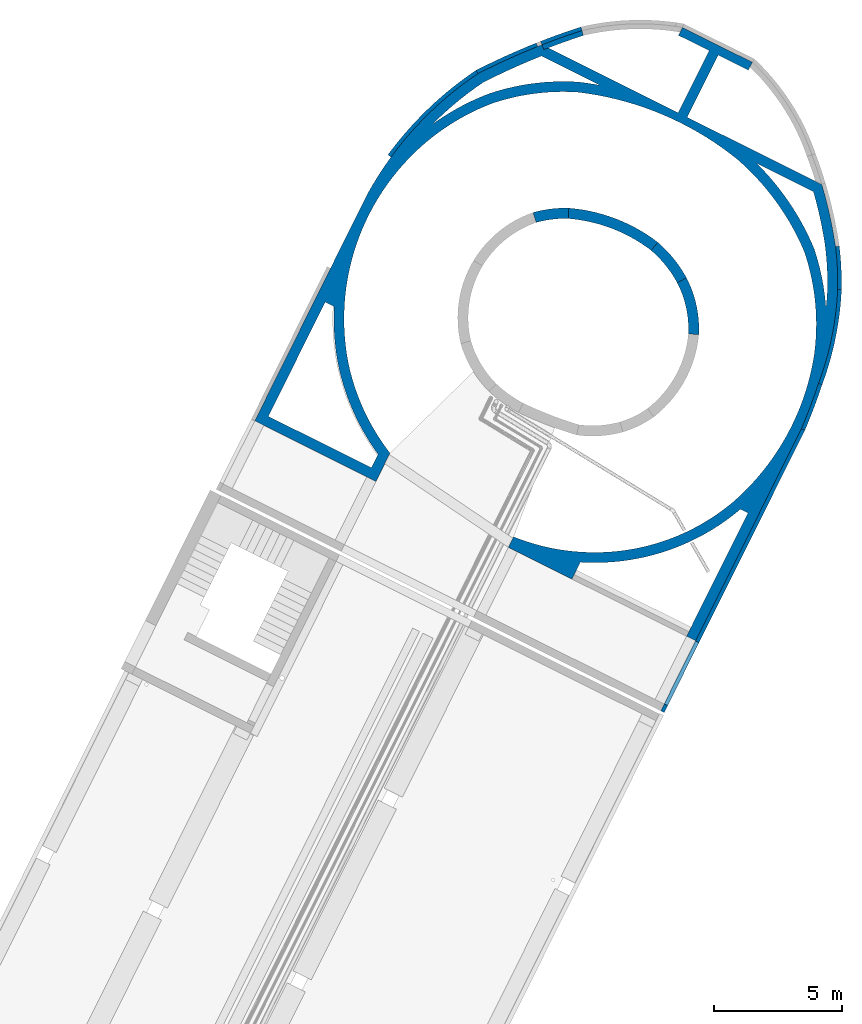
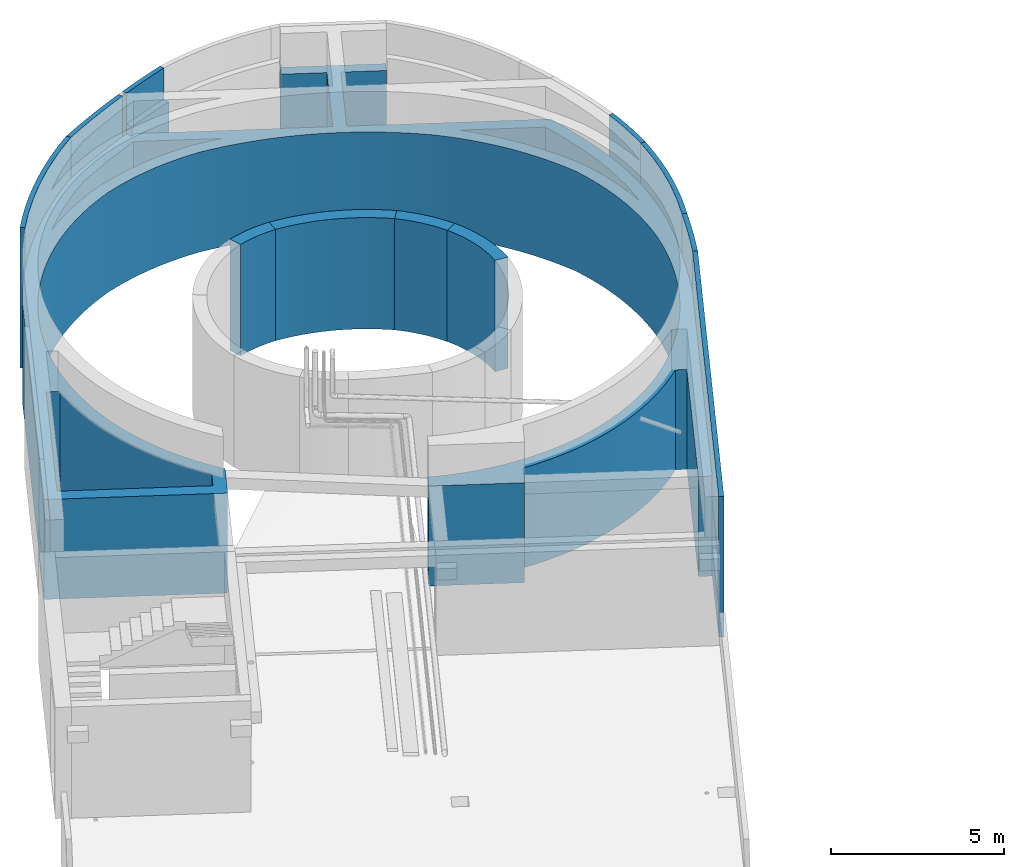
# One storey, part 9 of 47: 13 walls, 4 openings.
"""IFC2X3 building model written with IfcOpenShell, lengths in metres."""

from ifc_helpers import new_model, entity, si_unit, converted_unit, derived_unit, direction, frame, frame_2d, origin, origin_2d_with_axis, place, context, subcontext, project, spatial, polyline, circle_curve, parameter, trimmed, segment, composite_curve, rectangle, outline, extrude, material, layer, layer_set, layer_usage, type_object, element, save


model = new_model("IFC2X3")

# Units and contexts
model_context = context("Model", 3, precision=1e-05, world=origin(), true_north=direction((0.894925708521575, 0.446215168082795)))
context_of_model = context(None, 3, precision=1e-05, world=origin(), true_north=direction((0.894925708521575, 0.446215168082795)))
body_context = subcontext(model_context, "Body", "Model", "MODEL_VIEW")
ifc_project = project(units=[si_unit("LENGTHUNIT", "METRE"), si_unit("AREAUNIT", "SQUARE_METRE"), si_unit("VOLUMEUNIT", "CUBIC_METRE"), converted_unit("PLANEANGLEUNIT", "DEGREE", entity("IfcRatioMeasure", 0.0174532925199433), si_unit("PLANEANGLEUNIT", "RADIAN"), dimensions=[0, 0, 0, 0, 0, 0, 0]), si_unit("MASSUNIT", "GRAM", prefix="KILO"), si_unit("TIMEUNIT", "SECOND"), si_unit("FREQUENCYUNIT", "HERTZ"), si_unit("THERMODYNAMICTEMPERATUREUNIT", "DEGREE_CELSIUS"), derived_unit("THERMALTRANSMITTANCEUNIT", [(si_unit("MASSUNIT", "GRAM", prefix="KILO"), 1), (si_unit("THERMODYNAMICTEMPERATUREUNIT", "KELVIN"), -1), (si_unit("TIMEUNIT", "SECOND"), -3)]), derived_unit("VOLUMETRICFLOWRATEUNIT", [(si_unit("LENGTHUNIT", "METRE"), 3), (si_unit("TIMEUNIT", "SECOND"), -1)]), si_unit("ELECTRICCURRENTUNIT", "AMPERE"), si_unit("ELECTRICVOLTAGEUNIT", "VOLT"), si_unit("POWERUNIT", "WATT"), si_unit("FORCEUNIT", "NEWTON", prefix="KILO"), si_unit("ILLUMINANCEUNIT", "LUX"), si_unit("LUMINOUSFLUXUNIT", "LUMEN"), si_unit("LUMINOUSINTENSITYUNIT", "CANDELA"), si_unit("PRESSUREUNIT", "PASCAL")], contexts=[model_context, context_of_model])

# Site, building, storey
site_placement = place(None, frame((218.228324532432, 584.720189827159, 0.0), z_axis=(0.0, 0.0, 1.0), x_axis=(0.446215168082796, 0.894925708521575, 0.0)))
site = spatial("IfcSite", under=ifc_project, at=site_placement, Name="Default", CompositionType="ELEMENT")
building_placement = place(site_placement, origin())
building = spatial("IfcBuilding", under=site, at=building_placement, CompositionType="ELEMENT")
storey_placement = place(building_placement, frame((0.0, 0.0, 4.69)))
storey = spatial("IfcBuildingStorey", under=building, at=storey_placement, Name="1 - Piano Primo", CompositionType="ELEMENT", Elevation=4.69)

# Walls
ifc_material_1 = material(Name="Intonaco - Bianco")
ifc_layer_1 = layer(ifc_material_1, 0.01)
ifc_material_2 = material(Name="Default - Calcestruzzo")
ifc_layer_2 = layer(ifc_material_2, 0.4)
ifc_layer_set_1 = layer_set([ifc_layer_1, ifc_layer_2], Name="Muro di base:Setto CA intonacato int - 41 cm")
ifc_layer_usage_1 = layer_usage(ifc_layer_set_1, "AXIS2", "POSITIVE", -0.205)
wall_type_1 = type_object("IfcWallType", Name="Muro di base:Setto CA intonacato int - 41 cm", PredefinedType="STANDARD", material=ifc_layer_set_1)
wall_1_placement = place(storey_placement, frame((74.4408967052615, -6.4093007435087, 0.0), z_axis=(0.0, 0.0, 1.0), x_axis=(0.401751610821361, -0.91574867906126, 0.0)))
element("IfcWallStandardCase", 1, at=wall_1_placement, inside=storey, type_object=wall_type_1, material=ifc_layer_usage_1, Name="Muro di base:Setto CA intonacato int - 41 cm", ObjectType="Muro di base:Setto CA intonacato int - 41 cm", context=body_context, shape_type="SweptSolid", body=[
    extrude(outline(composite_curve([segment(trimmed(circle_curve(frame_2d((-3.6131813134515, -2.09945934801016), x_axis=(1.0, 0.0)), 4.3838525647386), [parameter(4.07110999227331e-12)], [parameter(30.1589707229)], True, "PARAMETER"), True, "CONTINUOUS"), segment(polyline([(0.177250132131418, 0.102992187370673), (-0.17501766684, -0.106839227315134)]), True, "CONTINUOUS"), segment(trimmed(circle_curve(frame_2d((-3.6131813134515, -2.09945934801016), x_axis=(1.0, 0.0)), 3.9738525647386), [parameter(0.123917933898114)], [parameter(30.0948403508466)], True, "PARAMETER"), False, "CONTINUOUS"), segment(polyline([(0.360661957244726, -2.09086480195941), (0.770671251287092, -2.09945934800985)]), True, "CONTINUOUS")], self_intersect=False)), origin(), (0.0, 0.0, 1.0), 3.92),
])
ifc_layer_usage_2 = layer_usage(ifc_layer_set_1, "AXIS2", "POSITIVE", -0.205)
wall_2_placement = place(storey_placement, frame((75.1511296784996, -4.85328415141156, 0.0), z_axis=(0.0, 0.0, 1.0), x_axis=(0.791601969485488, -0.611037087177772, 0.0)))
element("IfcWallStandardCase", 2, at=wall_2_placement, inside=storey, type_object=wall_type_1, material=ifc_layer_usage_2, Name="Muro di base:Setto CA intonacato int - 41 cm", ObjectType="Muro di base:Setto CA intonacato int - 41 cm", context=body_context, shape_type="SweptSolid", body=[
    extrude(outline(composite_curve([segment(trimmed(circle_curve(frame_2d((-4.38089045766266, -1.89996316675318), x_axis=(1.0, 0.0)), 4.98015038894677), [parameter(2.75814113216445)], [parameter(23.4460581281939)], True, "PARAMETER"), True, "CONTINUOUS"), segment(polyline([(0.188074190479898, 0.0815665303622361), (-0.18352889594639, -0.0920830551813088)]), True, "CONTINUOUS"), segment(trimmed(circle_curve(frame_2d((-4.38089045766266, -1.89996316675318), x_axis=(1.0, 0.0)), 4.57015038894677), [parameter(2.81424736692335)], [parameter(23.3024253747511)], True, "PARAMETER"), False, "CONTINUOUS"), segment(polyline([(0.183748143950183, -1.67557730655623), (0.593490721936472, -1.66031806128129)]), True, "CONTINUOUS")], self_intersect=False)), origin(), (0.0, 0.0, 1.0), 3.92),
])
ifc_layer_usage_3 = layer_usage(ifc_layer_set_1, "AXIS2", "POSITIVE", -0.205)
wall_3_placement = place(storey_placement, frame((74.802726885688, -1.26210765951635, 0.0), z_axis=(0.0, 0.0, 1.0), x_axis=(0.981627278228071, -0.190808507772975, 0.0)))
element("IfcWallStandardCase", 3, at=wall_3_placement, inside=storey, type_object=wall_type_1, material=ifc_layer_usage_3, Name="Muro di base:Setto CA intonacato int - 41 cm", ObjectType="Muro di base:Setto CA intonacato int - 41 cm", context=body_context, shape_type="SweptSolid", body=[
    extrude(outline(composite_curve([segment(trimmed(circle_curve(frame_2d((-5.35002966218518, -3.47022808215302), x_axis=(1.0, 0.0)), 6.58193502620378), [parameter(359.999999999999)], [parameter(32.9689408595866)], True, "PARAMETER"), True, "CONTINUOUS"), segment(polyline([(0.171987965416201, 0.111557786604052), (-0.16648051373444, -0.120063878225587)]), True, "CONTINUOUS"), segment(trimmed(circle_curve(frame_2d((-5.35002966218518, -3.47022808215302), x_axis=(1.0, 0.0)), 6.17193502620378), [parameter(0.107510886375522)], [parameter(32.8748697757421)], True, "PARAMETER"), False, "CONTINUOUS"), segment(polyline([(0.821894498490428, -3.458646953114), (1.2319053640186, -3.47022808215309)]), True, "CONTINUOUS")], self_intersect=False)), origin(), (0.0, 0.0, 1.0), 3.92),
])
ifc_layer_usage_4 = layer_usage(ifc_layer_set_1, "AXIS2", "POSITIVE", -0.205)
wall_4_placement = place(storey_placement, frame((74.0607317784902, -0.146360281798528, 0.0), z_axis=(0.0, 0.0, 1.0), x_axis=(0.907919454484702, 0.419144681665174, 0.0)))
element("IfcWallStandardCase", 4, at=wall_4_placement, inside=storey, type_object=wall_type_1, material=ifc_layer_usage_4, Name="Muro di base:Setto CA intonacato int - 41 cm", ObjectType="Muro di base:Setto CA intonacato int - 41 cm", context=body_context, shape_type="SweptSolid", body=[
    extrude(outline(composite_curve([segment(trimmed(circle_curve(frame_2d((-4.22179150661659, -1.33406781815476), x_axis=(1.0, 0.0)), 4.63255694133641), [parameter(7.46030906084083e-11)], [parameter(17.5363103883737)], True, "PARAMETER"), True, "CONTINUOUS"), segment(polyline([(0.195472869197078, 0.0617685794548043), (-0.192000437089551, -0.0728100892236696)]), True, "CONTINUOUS"), segment(trimmed(circle_curve(frame_2d((-4.22179150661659, -1.33406781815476), x_axis=(1.0, 0.0)), 4.22255694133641), [parameter(0.135564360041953)], [parameter(17.3792540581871)], True, "PARAMETER"), False, "CONTINUOUS"), segment(polyline([(0.000753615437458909, -1.3240770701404), (0.410765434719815, -1.33406781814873)]), True, "CONTINUOUS")], self_intersect=False)), origin(), (0.0, 0.0, 1.0), 3.92),
])
ifc_material_3 = material(Name="Sabbia e Calcestruzzo")
ifc_layer_3 = layer(ifc_material_3, 0.2)
ifc_layer_set_2 = layer_set([ifc_layer_3], Name="Muro di base:Blocchetti - 20 cm")
ifc_layer_usage_5 = layer_usage(ifc_layer_set_2, "AXIS2", "NEGATIVE", 0.1)
wall_type_2 = type_object("IfcWallType", Name="Muro di base:Blocchetti - 20 cm", PredefinedType="STANDARD", material=ifc_layer_set_2)
wall_5_placement = place(storey_placement, frame((81.3780811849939, 1.38576709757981, 0.0)))
element("IfcWallStandardCase", 5, at=wall_5_placement, inside=storey, type_object=wall_type_2, material=ifc_layer_usage_5, Name="Muro di base:Blocchetti - 20 cm", ObjectType="Muro di base:Blocchetti - 20 cm", context=body_context, shape_type="SweptSolid", body=[
    extrude(outline(composite_curve([segment(polyline([(-1.2631160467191, 1.07642162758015), (-1.19596740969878, 1.01542756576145)]), True, "CONTINUOUS"), segment(polyline([(-1.19596740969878, 1.01542756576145), (-1.12901874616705, 0.954207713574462)]), True, "CONTINUOUS"), segment(polyline([(-1.12901874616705, 0.954207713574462), (-0.77233017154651, 0.621031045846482)]), True, "CONTINUOUS"), segment(polyline([(-0.77233017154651, 0.621031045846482), (-0.421644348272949, 0.28152007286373)]), True, "CONTINUOUS"), segment(polyline([(-0.421644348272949, 0.28152007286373), (-0.0770828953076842, -0.0642079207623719)]), True, "CONTINUOUS"), segment(polyline([(-0.0770828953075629, -0.0642079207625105), (0.0714788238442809, 0.0699340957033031)]), True, "CONTINUOUS"), segment(trimmed(circle_curve(frame_2d((-19.5855450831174, -19.1622820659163), x_axis=(1.0, 0.0)), 27.5004859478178), [parameter(44.3741527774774)], [parameter(47.8449424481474)], True, "PARAMETER"), True, "CONTINUOUS"), segment(polyline([(-1.12888818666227, 1.22468787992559), (-1.1290287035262, 1.22453266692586)]), True, "CONTINUOUS"), segment(polyline([(-1.1290287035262, 1.22453266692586), (-1.26311604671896, 1.07642162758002)]), True, "CONTINUOUS")], self_intersect=False)), origin(), (0.0, 0.0, 1.0), 3.86),
])

# Wall, opening
ifc_material_4 = material(Name="Alluminio")
ifc_layer_4 = layer(ifc_material_4, 0.15)
ifc_layer_set_3 = layer_set([ifc_layer_4], Name="Muro di base:Rivestimento 15 cm")
ifc_layer_usage_6 = layer_usage(ifc_layer_set_3, "AXIS2", "NEGATIVE", 0.075)
wall_type_3 = type_object("IfcWallType", Name="Muro di base:Rivestimento 15 cm", PredefinedType="STANDARD", material=ifc_layer_set_3)
wall_6_placement = place(storey_placement, frame((71.3250278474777, -13.2760789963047, 0.0), z_axis=(0.0, 0.0, 1.0), x_axis=(-1.0, 0.0, 0.0)))
wall_6 = element("IfcWallStandardCase", 6, at=wall_6_placement, inside=storey, type_object=wall_type_3, material=ifc_layer_usage_6, Name="Muro di base:Rivestimento 15 cm", ObjectType="Muro di base:Rivestimento 15 cm", context=body_context, shape_type="SweptSolid", body=[
    extrude(outline(polyline([(12.3590908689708, -0.0750000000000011), (12.3590908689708, 0.0749999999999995), (0.0, 0.0750000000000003), (0.00456255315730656, -0.0750000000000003), (12.3590908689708, -0.0750000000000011)])), origin(), (0.0, 0.0, 1.0), 4.95),
])
opening_1_placement = place(wall_6_placement, frame((12.0490908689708, 1.59900000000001, 1.0)))
element("IfcOpeningElement", 7, at=opening_1_placement, cuts=wall_6, Name="Muro di base:Rivestimento 15 cm", ObjectType="Opening", context=body_context, shape_type="SweptSolid", body=[
    extrude(rectangle(XDim=1.6, YDim=2.75, at=origin_2d_with_axis()), frame((-1.375, -3.04800000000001, 0.799999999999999), z_axis=(0.0, 1.0, 0.0), x_axis=(0.0, 0.0, -1.0)), (0.0, 0.0, 1.0), 3.048),
])

# Walls
ifc_layer_usage_7 = layer_usage(ifc_layer_set_3, "AXIS2", "POSITIVE", -0.075)
wall_7_placement = place(storey_placement, frame((73.2247688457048, -13.0818881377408, 0.0)))
element("IfcWallStandardCase", 8, at=wall_7_placement, inside=storey, type_object=wall_type_3, material=ifc_layer_usage_7, Name="Muro di base:Rivestimento 15 cm", ObjectType="Muro di base:Rivestimento 15 cm", context=body_context, shape_type="SweptSolid", body=[
    extrude(outline(composite_curve([segment(trimmed(circle_curve(frame_2d((-3.32195223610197, 23.1253168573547), x_axis=(1.0, 0.0)), 23.4376977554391), [parameter(273.478873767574)], [parameter(278.167711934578)], True, "PARAMETER"), True, "CONTINUOUS"), segment(polyline([(0.00786819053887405, -0.0746394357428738), (-0.0106642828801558, 0.074237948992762)]), True, "CONTINUOUS"), segment(trimmed(circle_curve(frame_2d((-3.32195223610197, 23.1253168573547), x_axis=(1.0, 0.0)), 23.2876977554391), [parameter(273.490063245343)], [parameter(278.17461736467)], True, "PARAMETER"), False, "CONTINUOUS"), segment(polyline([(-1.90430355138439, -0.119190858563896), (-1.89974099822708, -0.269190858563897)]), True, "CONTINUOUS")], self_intersect=False)), origin(), (0.0, 0.0, 1.0), 4.95),
])
ifc_layer_usage_8 = layer_usage(ifc_layer_set_3, "AXIS2", "POSITIVE", -0.075)
wall_8_placement = place(storey_placement, frame((76.8693345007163, -12.1082945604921, 0.0)))
element("IfcWallStandardCase", 9, at=wall_8_placement, inside=storey, type_object=wall_type_3, material=ifc_layer_usage_8, Name="Muro di base:Rivestimento 15 cm", ObjectType="Muro di base:Rivestimento 15 cm", context=body_context, shape_type="SweptSolid", body=[
    extrude(outline(composite_curve([segment(trimmed(circle_curve(frame_2d((-4.92036196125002, 11.1099403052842), x_axis=(1.0, 0.0)), 12.2257504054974), [parameter(276.02698137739)], [parameter(293.887558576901)], True, "PARAMETER"), True, "CONTINUOUS"), segment(polyline([(0.0303707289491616, -0.0685756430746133), (-0.032187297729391, 0.0677713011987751)]), True, "CONTINUOUS"), segment(trimmed(circle_curve(frame_2d((-4.92036196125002, 11.1099403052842), x_axis=(1.0, 0.0)), 12.0757504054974), [parameter(276.0137038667)], [parameter(293.878132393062)], True, "PARAMETER"), False, "CONTINUOUS"), segment(polyline([(-3.6552299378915, -0.899355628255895), (-3.63669746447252, -1.04823301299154)]), True, "CONTINUOUS")], self_intersect=False)), origin(), (0.0, 0.0, 1.0), 4.95),
])
ifc_layer_usage_9 = layer_usage(ifc_layer_set_3, "AXIS2", "POSITIVE", -0.075)
wall_9_placement = place(storey_placement, frame((78.3492203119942, -11.2758851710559, 0.0)))
element("IfcWallStandardCase", 10, at=wall_9_placement, inside=storey, type_object=wall_type_3, material=ifc_layer_usage_9, Name="Muro di base:Rivestimento 15 cm", ObjectType="Muro di base:Rivestimento 15 cm", context=body_context, shape_type="SweptSolid", body=[
    extrude(outline(composite_curve([segment(trimmed(circle_curve(frame_2d((-6.78022468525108, 10.3228070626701), x_axis=(1.0, 0.0)), 12.4253762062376), [parameter(295.405253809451)], [parameter(303.297703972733)], True, "PARAMETER"), True, "CONTINUOUS"), segment(polyline([(0.0411741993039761, -0.0626872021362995), (-0.0427763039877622, 0.0616350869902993)]), True, "CONTINUOUS"), segment(trimmed(circle_curve(frame_2d((-6.78022468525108, 10.3228070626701), x_axis=(1.0, 0.0)), 12.2753762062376), [parameter(295.414527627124)], [parameter(303.288757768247)], True, "PARAMETER"), False, "CONTINUOUS"), segment(polyline([(-1.51207310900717, -0.764638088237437), (-1.44951508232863, -0.900985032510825)]), True, "CONTINUOUS")], self_intersect=False)), origin(), (0.0, 0.0, 1.0), 4.95),
])
ifc_layer_usage_10 = layer_usage(ifc_layer_set_3, "AXIS2", "POSITIVE", -0.075)
wall_10_placement = place(storey_placement, frame((80.2995284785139, 2.66605479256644, 0.0)))
element("IfcWallStandardCase", 11, at=wall_10_placement, inside=storey, type_object=wall_type_3, material=ifc_layer_usage_10, Name="Muro di base:Rivestimento 15 cm", ObjectType="Muro di base:Rivestimento 15 cm", context=body_context, shape_type="SweptSolid", body=[
    extrude(outline(composite_curve([segment(polyline([(0.0503354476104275, 0.0555998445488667), (-0.0503354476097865, -0.0555998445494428)]), True, "CONTINUOUS"), segment(trimmed(circle_curve(frame_2d((-18.5069923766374, -20.4425697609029), x_axis=(1.0, 0.0)), 27.5004859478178), [parameter(44.3741527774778)], [parameter(47.8449423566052)], True, "PARAMETER"), False, "CONTINUOUS"), segment(polyline([(1.15003153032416, -1.2103535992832), (1.26142780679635, -1.10972370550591)]), True, "CONTINUOUS"), segment(trimmed(circle_curve(frame_2d((-18.5069923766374, -20.4425697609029), x_axis=(1.0, 0.0)), 27.6504859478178), [parameter(44.3617718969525)], [parameter(47.8449423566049)], True, "PARAMETER"), True, "CONTINUOUS")], self_intersect=False)), origin(), (0.0, 0.0, 1.0), 4.95),
])
ifc_layer_usage_11 = layer_usage(ifc_layer_set_3, "AXIS2", "POSITIVE", -0.075)
wall_11_placement = place(storey_placement, frame((78.1588103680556, 4.4167493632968, 0.0)))
element("IfcWallStandardCase", 12, at=wall_11_placement, inside=storey, type_object=wall_type_3, material=ifc_layer_usage_11, Name="Muro di base:Rivestimento 15 cm", ObjectType="Muro di base:Rivestimento 15 cm", context=body_context, shape_type="SweptSolid", body=[
    extrude(outline(composite_curve([segment(trimmed(circle_curve(frame_2d((-16.3663447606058, -22.1933416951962), x_axis=(1.0, 0.0)), 27.6503813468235), [parameter(48.2279813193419)], [parameter(53.5933068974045)], True, "PARAMETER"), True, "CONTINUOUS"), segment(polyline([(0.0445134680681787, 0.0603618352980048), (-0.037406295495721, -0.0656047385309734)]), True, "CONTINUOUS"), segment(trimmed(circle_curve(frame_2d((-16.3663447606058, -22.1933416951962), x_axis=(1.0, 0.0)), 27.5003813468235), [parameter(48.2279813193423)], [parameter(53.5749063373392)], True, "PARAMETER"), False, "CONTINUOUS"), segment(polyline([(1.95353823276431, -1.68351816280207), (2.0534634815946, -1.57164794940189)]), True, "CONTINUOUS")], self_intersect=False)), origin(), (0.0, 0.0, 1.0), 4.95),
])
ifc_layer_usage_12 = layer_usage(ifc_layer_set_3, "AXIS2", "POSITIVE", -0.075)
wall_12_placement = place(storey_placement, frame((78.16619078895, 4.4119488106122, 0.0)))
element("IfcWallStandardCase", 13, at=wall_12_placement, inside=storey, type_object=wall_type_3, material=ifc_layer_usage_12, Name="Muro di base:Rivestimento 15 cm", ObjectType="Muro di base:Rivestimento 15 cm", context=body_context, shape_type="SweptSolid", body=[
    extrude(outline(composite_curve([segment(trimmed(circle_curve(frame_2d((-6.79249214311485, -11.9197060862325), x_axis=(1.0, 0.0)), 13.6442325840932), [parameter(60.3601593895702)], [parameter(80.2989621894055)], True, "PARAMETER"), False, "CONTINUOUS"), segment(polyline([(-0.0447867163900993, -0.0608041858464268), (0.0371330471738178, 0.0651623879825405)]), True, "CONTINUOUS"), segment(trimmed(circle_curve(frame_2d((-6.79249214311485, -11.9197060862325), x_axis=(1.0, 0.0)), 13.7942325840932), [parameter(60.3231742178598)], [parameter(80.2989621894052)], True, "PARAMETER"), True, "CONTINUOUS"), segment(polyline([(-4.46806416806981, 1.67727472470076), (-4.49334025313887, 1.52941966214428)]), True, "CONTINUOUS")], self_intersect=False)), origin(), (0.0, 0.0, 1.0), 4.95),
])

# Wall, openings
ifc_material_5 = material(Name="Calcestruzzo, gettato in opera")
wall_type_4 = type_object("IfcWallType", Name="Muri 7:Muri 7", PredefinedType="NOTDEFINED", material=ifc_material_5)
wall_13_placement = place(storey_placement, frame((62.0359369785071, -13.2010789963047, 0.0)))
wall_13 = element("IfcWall", 14, at=wall_13_placement, inside=storey, type_object=wall_type_4, material=ifc_material_5, Name="Muri 7:Muri 7", ObjectType="Muri 7:Muri 7", context=body_context, shape_type="SweptSolid", body=[
    extrude(outline(composite_curve([segment(polyline([(1.44263386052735, -10.2806385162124), (11.3349612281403, -10.2806385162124)]), True, "CONTINUOUS"), segment(polyline([(11.3349612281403, -10.2806385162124), (11.3446340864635, -4.97239318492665)]), True, "CONTINUOUS"), segment(polyline([(11.3446340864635, -4.97239318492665), (10.1081249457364, -4.97013997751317)]), True, "CONTINUOUS"), segment(trimmed(circle_curve(frame_2d((2.29458166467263, -1.19164257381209), x_axis=(-0.999998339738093, 0.00182222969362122)), 8.67919934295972), [parameter(128.626498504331)], [parameter(154.296780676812)], True, "PARAMETER"), False, "CONTINUOUS"), segment(trimmed(circle_curve(frame_2d((2.17973791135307, -0.830657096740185), x_axis=(-0.999998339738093, 0.00182222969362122)), 9.03415781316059), [parameter(89.2695466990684)], [parameter(127.770421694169)], True, "PARAMETER"), False, "CONTINUOUS"), segment(trimmed(circle_curve(frame_2d((2.16007726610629, -0.798847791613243), x_axis=(-0.999998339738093, 0.00182222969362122)), 9.06569960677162), [parameter(68.2689841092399)], [parameter(89.3967193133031)], True, "PARAMETER"), False, "CONTINUOUS"), segment(trimmed(circle_curve(frame_2d((2.13965934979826, -0.901294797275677), x_axis=(-0.999998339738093, 0.00182222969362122)), 8.9630287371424), [parameter(47.0933222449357)], [parameter(68.1465603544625)], True, "PARAMETER"), False, "CONTINUOUS"), segment(trimmed(circle_curve(frame_2d((2.23472973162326, -1.29546122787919), x_axis=(-0.999998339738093, 0.00182222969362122)), 8.74620571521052), [parameter(22.9762295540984)], [parameter(44.8759724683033)], True, "PARAMETER"), False, "CONTINUOUS"), segment(trimmed(circle_curve(frame_2d((5.67328428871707, -0.549826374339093), x_axis=(-0.999998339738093, 0.00182222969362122)), 12.2214845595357), [parameter(347.574860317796)], [parameter(19.9300697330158)], True, "PARAMETER"), False, "CONTINUOUS"), segment(trimmed(circle_curve(frame_2d((3.28753863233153, -0.373187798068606), x_axis=(-0.999998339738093, 0.00182222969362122)), 9.86027897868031), [parameter(319.351121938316)], [parameter(345.568927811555)], True, "PARAMETER"), False, "CONTINUOUS"), segment(trimmed(circle_curve(frame_2d((2.09234022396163, -0.186079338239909), x_axis=(-0.999998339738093, 0.00182222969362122)), 8.85578532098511), [parameter(288.583694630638)], [parameter(315.216590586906)], True, "PARAMETER"), False, "CONTINUOUS"), segment(trimmed(circle_curve(frame_2d((2.1685200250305, -0.958269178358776), x_axis=(-0.999998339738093, 0.00182222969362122)), 9.61385357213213), [parameter(247.816870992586)], [parameter(287.555572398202)], True, "PARAMETER"), False, "CONTINUOUS"), segment(trimmed(circle_curve(frame_2d((2.48365987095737, 0.204185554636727), x_axis=(-0.999998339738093, 0.00182222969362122)), 8.42004812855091), [parameter(203.033007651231)], [parameter(246.801081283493)], True, "PARAMETER"), False, "CONTINUOUS"), segment(trimmed(circle_curve(frame_2d((2.40514193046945, 0.151482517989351), x_axis=(-0.999998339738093, 0.00182222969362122)), 8.51291361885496), [parameter(184.665473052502)], [parameter(203.153817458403)], True, "PARAMETER"), False, "CONTINUOUS"), segment(polyline([(10.8910963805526, 0.828442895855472), (11.3552030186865, 0.827597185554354)]), True, "CONTINUOUS"), segment(polyline([(11.3552030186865, 0.827597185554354), (11.3602688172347, 3.60759257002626)]), True, "CONTINUOUS"), segment(polyline([(11.3602688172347, 3.60759257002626), (10.6200525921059, 3.60894141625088)]), True, "CONTINUOUS"), segment(trimmed(circle_curve(frame_2d((2.48365987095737, 0.204185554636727), x_axis=(-0.999998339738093, 0.00182222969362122)), 8.82004812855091), [parameter(202.811771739)], [parameter(246.829576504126)], True, "PARAMETER"), True, "CONTINUOUS"), segment(polyline([(5.96883120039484, 8.30645867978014), (5.96943429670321, 8.63742425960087)]), True, "CONTINUOUS"), segment(polyline([(5.96943429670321, 8.63742425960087), (11.3694164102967, 8.62758423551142)]), True, "CONTINUOUS"), segment(polyline([(11.3694164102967, 8.62758423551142), (11.3701453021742, 9.02758357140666)]), True, "CONTINUOUS"), segment(polyline([(11.3701453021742, 9.02758357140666), (2.08563240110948, 9.04450211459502)]), True, "CONTINUOUS"), segment(trimmed(circle_curve(frame_2d((3.4609218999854, -14.2025502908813), x_axis=(-0.999998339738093, 0.00182222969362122)), 23.2876977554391), [parameter(273.490063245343)], [parameter(278.17461736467)], True, "PARAMETER"), True, "CONTINUOUS"), segment(trimmed(circle_curve(frame_2d((1.43489003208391, -3.15705708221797), x_axis=(-0.999998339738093, 0.00182222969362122)), 12.0757504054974), [parameter(276.013703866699)], [parameter(293.878132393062)], True, "PARAMETER"), True, "CONTINUOUS"), segment(trimmed(circle_curve(frame_2d((1.81478381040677, -3.20302555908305), x_axis=(-0.999998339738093, 0.00182222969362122)), 12.2753762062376), [parameter(295.414527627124)], [parameter(303.288757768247)], True, "PARAMETER"), True, "CONTINUOUS"), segment(trimmed(circle_curve(frame_2d((4.85506430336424, -7.04175063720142), x_axis=(-0.999998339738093, 0.00182222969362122)), 17.1578390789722), [parameter(304.769535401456)], [parameter(313.117499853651)], True, "PARAMETER"), True, "CONTINUOUS"), segment(polyline([(-6.84942118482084, 5.50402400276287), (-6.86016003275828, -0.389212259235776)]), True, "CONTINUOUS"), segment(polyline([(-6.86016003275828, -0.389212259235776), (-9.58015551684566, -0.384255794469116)]), True, "CONTINUOUS"), segment(polyline([(-9.58015551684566, -0.384255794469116), (-9.57775017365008, 0.935742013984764)]), True, "CONTINUOUS"), segment(polyline([(-9.57775017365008, 0.935742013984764), (-9.92574007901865, 0.93637613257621)]), True, "CONTINUOUS"), segment(polyline([(-9.92574007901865, 0.93637613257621), (-9.93131610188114, -2.1236187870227)]), True, "CONTINUOUS"), segment(polyline([(-9.93131610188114, -2.1236187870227), (-9.58332619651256, -2.12425290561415)]), True, "CONTINUOUS"), segment(polyline([(-9.58332619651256, -2.12425290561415), (-9.5808844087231, -0.784255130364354)]), True, "CONTINUOUS"), segment(polyline([(-9.5808844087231, -0.784255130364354), (-6.86088892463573, -0.789211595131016)]), True, "CONTINUOUS"), segment(polyline([(-6.86088892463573, -0.789211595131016), (-6.87125934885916, -6.48026527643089)]), True, "CONTINUOUS"), segment(trimmed(circle_curve(frame_2d((11.621883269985, 13.6025684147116), x_axis=(-0.999998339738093, 0.00182222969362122)), 27.3004859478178), [parameter(47.4641930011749)], [parameter(47.8449424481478)], True, "PARAMETER"), True, "CONTINUOUS"), segment(polyline([(-6.73739491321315, -6.60271400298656), (-6.87175192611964, -6.75058045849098)]), True, "CONTINUOUS"), segment(trimmed(circle_curve(frame_2d((11.6219654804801, 13.6026348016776), x_axis=(-0.999998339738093, 0.00182222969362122)), 27.5003809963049), [parameter(47.8449086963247)], [parameter(48.2279483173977)], True, "PARAMETER"), True, "CONTINUOUS"), segment(trimmed(circle_curve(frame_2d((11.6219539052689, 13.602645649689), x_axis=(-0.999998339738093, 0.00182222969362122)), 27.5003813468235), [parameter(48.2279813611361)], [parameter(53.5749063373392)], True, "PARAMETER"), True, "CONTINUOUS"), segment(trimmed(circle_curve(frame_2d((2.02202459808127, 3.3512868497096), x_axis=(-0.999998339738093, 0.00182222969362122)), 13.6442325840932), [parameter(60.3601593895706)], [parameter(87.6706577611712)], True, "PARAMETER"), True, "CONTINUOUS")], self_intersect=False)), frame((11.3536760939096, 9.048287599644, 0.0), z_axis=(0.0, 0.0, 1.0), x_axis=(-0.999998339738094, -0.00182222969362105, 0.0)), (0.0, 0.0, 1.0), 3.52),
])
opening_2_placement = place(storey_placement, frame((62.0359369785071, -13.2010789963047, 0.0)))
element("IfcOpeningElement", 15, at=opening_2_placement, cuts=wall_13, Name="Muri 7:Muri 7:1", ObjectType="Opening", context=body_context, shape_type="SweptSolid", body=[
    extrude(outline(composite_curve([segment(polyline([(-2.7398905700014, -1.83315332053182), (2.26010881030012, -1.83315332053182)]), True, "CONTINUOUS"), segment(polyline([(2.26010881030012, -1.83315332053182), (2.26832521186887, 2.67582156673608)]), True, "CONTINUOUS"), segment(polyline([(2.26832521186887, 2.67582156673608), (1.67928990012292, 2.67689492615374)]), True, "CONTINUOUS"), segment(trimmed(circle_curve(frame_2d((-6.38099898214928, 6.85584262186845), x_axis=(-0.999998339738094, 0.00182222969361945)), 9.07919934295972), [parameter(128.607632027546)], [parameter(152.699415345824)], True, "PARAMETER"), False, "CONTINUOUS"), segment(trimmed(circle_curve(frame_2d((-6.49584273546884, 7.21682809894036), x_axis=(-0.999998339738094, 0.00182222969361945)), 9.43415781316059), [parameter(113.570054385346)], [parameter(127.788562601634)], True, "PARAMETER"), False, "CONTINUOUS"), segment(polyline([(-2.73916889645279, -1.43711523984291), (-2.7398905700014, -1.83315332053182)]), True, "CONTINUOUS")], self_intersect=False)), frame((2.66344548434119, 17.0799505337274, 0.0), z_axis=(0.0, 0.0, 1.0), x_axis=(-0.999998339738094, -0.00182222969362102, 0.0)), (0.0, 0.0, 1.0), 3.52),
])
opening_3_placement = place(storey_placement, frame((62.0359369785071, -13.2010789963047, 0.0)))
element("IfcOpeningElement", 16, at=opening_3_placement, cuts=wall_13, Name="Muri 7:Muri 7:2", ObjectType="Opening", context=body_context, shape_type="SweptSolid", body=[
    extrude(outline(composite_curve([segment(trimmed(circle_curve(frame_2d((-7.0192473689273, -10.1187084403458), x_axis=(1.0, 0.0)), 13.2442360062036), [parameter(60.4626388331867)], [parameter(71.6150874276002)], True, "PARAMETER"), True, "CONTINUOUS"), segment(trimmed(circle_curve(frame_2d((-7.14463601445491, -5.86635005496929), x_axis=(1.0, 0.0)), 9.3630287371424), [parameter(47.0459653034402)], [parameter(62.6430994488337)], True, "PARAMETER"), False, "CONTINUOUS"), segment(trimmed(circle_curve(frame_2d((-7.24042450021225, -5.47235751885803), x_axis=(1.0, 0.0)), 9.14620571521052), [parameter(22.9093959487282)], [parameter(44.9244777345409)], True, "PARAMETER"), False, "CONTINUOUS"), segment(trimmed(circle_curve(frame_2d((-10.6776146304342, -6.22425697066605), x_axis=(1.0, 0.0)), 12.6214845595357), [parameter(15.9807767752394)], [parameter(19.9781988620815)], True, "PARAMETER"), False, "CONTINUOUS"), segment(polyline([(1.45610155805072, -2.74937511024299), (1.45610155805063, -0.17887542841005)]), True, "CONTINUOUS"), segment(trimmed(circle_curve(frame_2d((-16.6004853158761, -20.3875453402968), x_axis=(1.0, 0.0)), 27.1003813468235), [parameter(48.2189909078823)], [parameter(53.5247118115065)], True, "PARAMETER"), True, "CONTINUOUS")], self_intersect=False)), frame((16.3570139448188, 15.8120320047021, 0.0)), (0.0, 0.0, 1.0), 3.52),
])
opening_4_placement = place(storey_placement, frame((62.0359369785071, -13.2010789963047, 0.0)))
element("IfcOpeningElement", 17, at=opening_4_placement, cuts=wall_13, Name="Muri 7:Muri 7:3", ObjectType="Opening", context=body_context, shape_type="SweptSolid", body=[
    extrude(outline(composite_curve([segment(polyline([(1.77684998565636, -3.24073570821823), (1.77684998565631, -0.753347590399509)]), True, "CONTINUOUS"), segment(trimmed(circle_curve(frame_2d((-9.54744339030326, -13.1099581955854), x_axis=(1.0, 0.0)), 16.7608307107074), [parameter(47.4961038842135)], [parameter(54.6696143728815)], True, "PARAMETER"), True, "CONTINUOUS"), segment(trimmed(circle_curve(frame_2d((-6.50320686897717, -9.27584410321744), x_axis=(1.0, 0.0)), 11.8753762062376), [parameter(55.9548021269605)], [parameter(64.5595918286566)], True, "PARAMETER"), True, "CONTINUOUS"), segment(trimmed(circle_curve(frame_2d((-6.12322995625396, -9.23056795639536), x_axis=(1.0, 0.0)), 11.6757504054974), [parameter(66.1481833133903)], [parameter(69.8513590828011)], True, "PARAMETER"), True, "CONTINUOUS"), segment(trimmed(circle_curve(frame_2d((-6.775265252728, -6.25839711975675), x_axis=(1.0, 0.0)), 9.25578532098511), [parameter(44.6939350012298)], [parameter(59.6711187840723)], True, "PARAMETER"), False, "CONTINUOUS"), segment(trimmed(circle_curve(frame_2d((-7.97080263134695, -6.4433273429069), x_axis=(1.0, 0.0)), 10.2602789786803), [parameter(18.18793950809)], [parameter(40.7294149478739)], True, "PARAMETER"), False, "CONTINUOUS")], self_intersect=False)), frame((16.0362655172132, 2.97215678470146, 0.0), z_axis=(0.0, 0.0, -1.0), x_axis=(1.0, 0.0, 0.0)), (0.0, 0.0, -1.0), 3.52),
])

save(model, "model.ifc")
